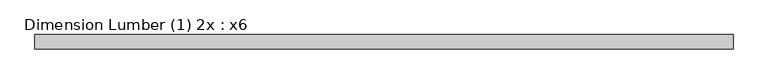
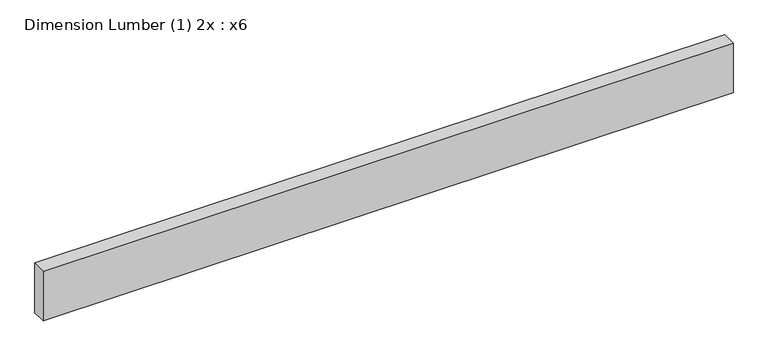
"""IFC4 building model written with IfcOpenShell, lengths in millimetres: beam geometry, Dimension Lumber (1) 2x : x6."""

from ifc_helpers import new_model, si_unit, frame, origin, place, context, project, spatial, polyline, outline, extrude, source, transform, mapped, element, save


def dimension_lumber_1_2x_x6_aa5b3a59(model_context):
    return source(origin(), model_context, "Body", "SweptSolid", [
        extrude(outline(polyline([(917.575, 19.05), (917.575, -19.05), (-917.575, -19.05), (-917.575, 19.05), (917.575, 19.05)])), frame((0.0, 0.0, -69.85), z_axis=(0.0, 0.0, 1.0), x_axis=(1.0, 0.0, 0.0)), (0.0, 0.0, 1.0), 139.7),
    ])


if __name__ == "__main__":
    model = new_model("IFC4")
    model_context = context("Model", 3, world=origin())
    ifc_project = project(units=[si_unit("LENGTHUNIT", "METRE", prefix="MILLI")], contexts=[model_context])
    site = spatial("IfcSite", under=ifc_project)
    building = spatial("IfcBuilding", under=site)
    placement = place(None, origin())
    dimension_lumber_1_2x_x6_shape = dimension_lumber_1_2x_x6_aa5b3a59(model_context)
    element("IfcBeam", 1, ObjectType="Dimension Lumber (1) 2x : x6", at=placement, inside=building, context=model_context, shape_type="MappedRepresentation", body=[
        mapped(dimension_lumber_1_2x_x6_shape, transform((0.0, 0.0, 0.0), x_axis=(1.0, 0.0, 0.0), y_axis=(0.0, 1.0, 0.0), z_axis=(0.0, 0.0, 1.0))),
    ])
    save(model, "model.ifc")
